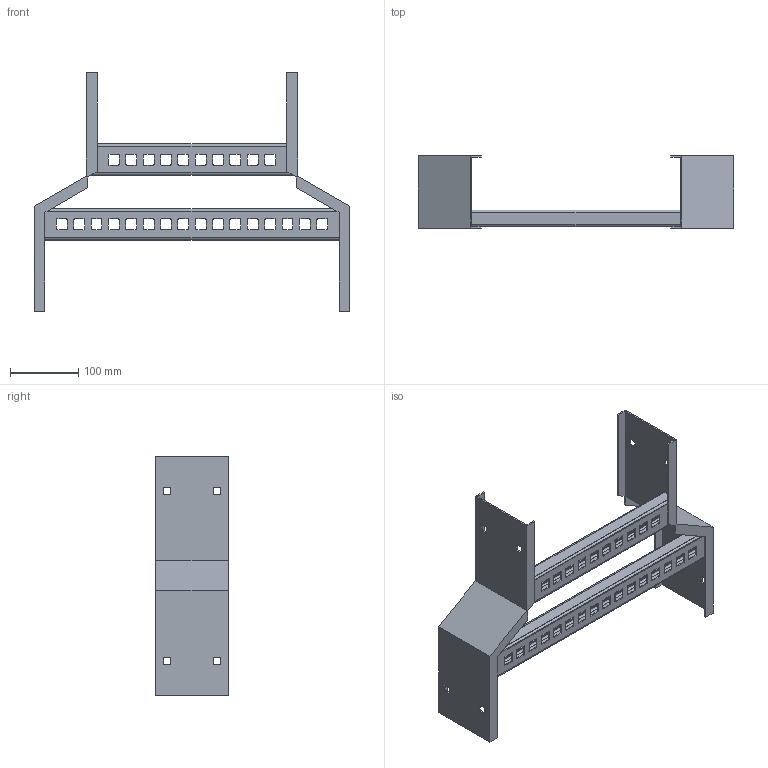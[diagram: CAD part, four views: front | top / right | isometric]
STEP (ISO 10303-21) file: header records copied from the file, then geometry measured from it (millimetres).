
FILE_DESCRIPTION((''),'2;1');
FILE_NAME('AUF41812LHSR_ASM','2010-01-27T',('erouzier'),(''),'PRO/ENGINEER BY PARAMETRIC TECHNOLOGY CORPORATION, 2008510','PRO/ENGINEER BY PARAMETRIC TECHNOLOGY CORPORATION, 2008510','');
FILE_SCHEMA(('CONFIG_CONTROL_DESIGN'));
Length unit declared in the file: inch
Products named in the file (4): CDS013866-4-30; CDS002159L18-P; CDS002159L12-P_AF1; AUF41812LHSR_ASM
Assembly tree (4 placements, depth 2):
  AUF41812LHSR_ASM
    CDS013866-4-30  x2
    CDS002159L18-P
    CDS002159L12-P_AF1
Bounding box: 461.77 x 106.05 x 348.79 mm (x, y, z)
Volume: 333805.4 mm3; surface area: 380619.6 mm2
Topology: 4 solids, 4 shells, 348 faces, 1008 edges, 668 vertices
Faces by surface type: plane 222, cylinder 126
Entity records: 10472 total; most frequent: CARTESIAN_POINT 1814, ORIENTED_EDGE 1800, DIRECTION 1784, EDGE_CURVE 900, VECTOR 648, LINE 648, VERTEX_POINT 598, AXIS2_PLACEMENT_3D 568
